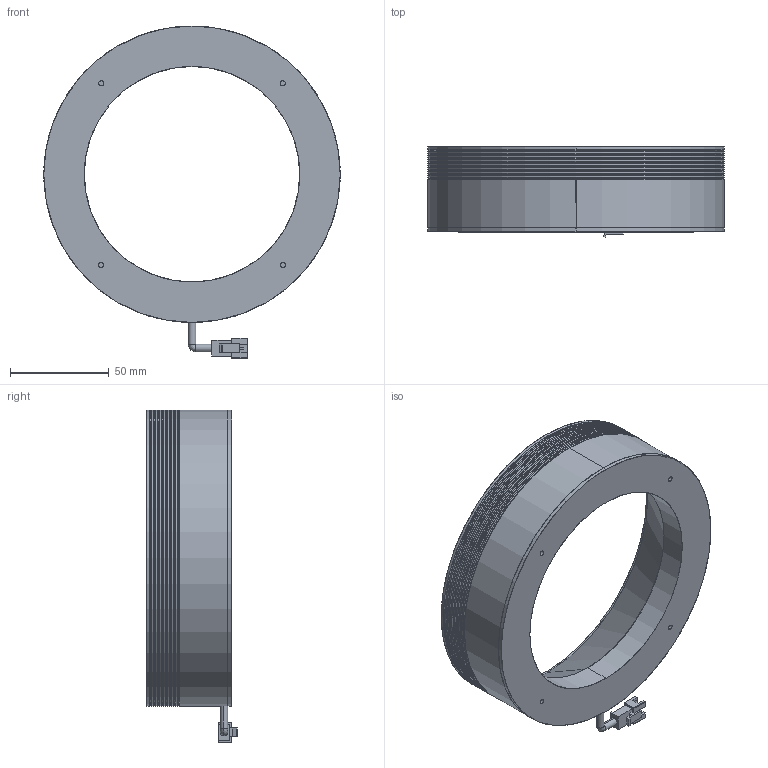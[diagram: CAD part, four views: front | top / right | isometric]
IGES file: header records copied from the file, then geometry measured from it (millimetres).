
Start section: SolidWorks IGES file using analytic representation for surfaces
Global section: file name: \\yushimv\workstation\新款图纸\标准产品\圆形无影光\RID150\ED\RID150.IGS; native system: SolidWorks 2021; preprocessor: SolidWorks 2021; author: yushimv; date: 210716.192617; units: millimetre
Bounding box: 150 x 45.65 x 168 mm (x, y, z)
Surface area: 121683.4 mm2 (no closed solid volume)
Topology: 0 solids, 0 shells, 320 faces, 4004 edges, 4004 vertices
Faces by surface type: bspline 210, revolution 110
